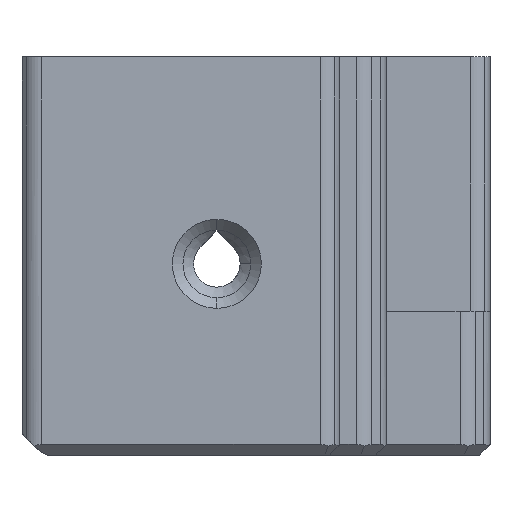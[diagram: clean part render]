
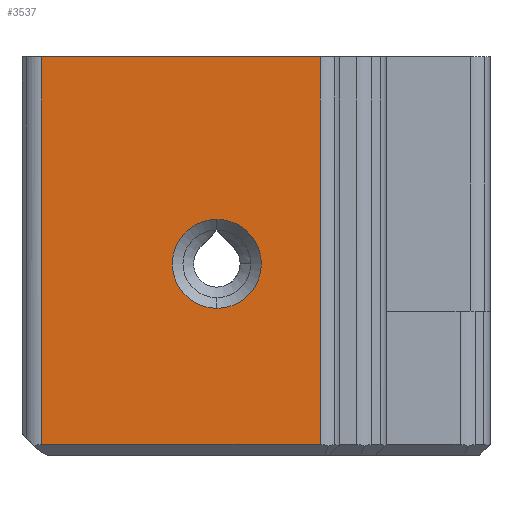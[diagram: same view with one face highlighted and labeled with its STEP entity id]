
A CAD part, front view. The second image highlights one B-rep face of the part: STEP entity #3537.
In plain terms, the highlighted planar face has unit normal (0, -1, 0).
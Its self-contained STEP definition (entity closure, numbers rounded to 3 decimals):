
#901=CARTESIAN_POINT('',(-4.086,-15.,0.5));
#1316=CARTESIAN_POINT('',(4.2,-15.,9.029));
#1317=DIRECTION('',(0.,1.,0.));
#1318=DIRECTION('',(0.,0.,1.));
#1319=AXIS2_PLACEMENT_3D('',#1316,#1317,#1318);
#1321=CARTESIAN_POINT('',(4.2,-15.,9.029));
#1322=DIRECTION('',(0.,1.,0.));
#1323=DIRECTION('',(0.,0.,-1.));
#1324=AXIS2_PLACEMENT_3D('',#1321,#1322,#1323);
#1326=DIRECTION('',(0.,0.,-1.));
#1327=VECTOR('',#1326,18.3);
#1328=CARTESIAN_POINT('',(-4.086,-15.,18.8));
#1329=LINE('',#1328,#1327);
#1330=DIRECTION('',(1.,0.,0.));
#1331=VECTOR('',#1330,13.172);
#1332=CARTESIAN_POINT('',(-4.086,-15.,18.8));
#1333=LINE('',#1332,#1331);
#1334=DIRECTION('',(0.,0.,1.));
#1335=VECTOR('',#1334,18.3);
#1336=CARTESIAN_POINT('',(9.086,-15.,0.5));
#1337=LINE('',#1336,#1335);
#1338=DIRECTION('',(-1.,0.,0.));
#1339=VECTOR('',#1338,13.172);
#1340=CARTESIAN_POINT('',(9.086,-15.,0.5));
#1341=LINE('',#1340,#1339);
#1414=CARTESIAN_POINT('',(4.2,-15.,11.129));
#1415=CARTESIAN_POINT('',(4.2,-15.,6.929));
#1416=VERTEX_POINT('',#1414);
#1417=VERTEX_POINT('',#1415);
#1697=VERTEX_POINT('',#901);
#1702=CARTESIAN_POINT('',(-4.086,-15.,18.8));
#1703=VERTEX_POINT('',#1702);
#1712=CARTESIAN_POINT('',(9.086,-15.,18.8));
#1713=VERTEX_POINT('',#1712);
#1714=CARTESIAN_POINT('',(9.086,-15.,0.5));
#1715=VERTEX_POINT('',#1714);
#3520=CARTESIAN_POINT('',(-10.,-15.,0.));
#3521=DIRECTION('',(0.,-1.,0.));
#3522=DIRECTION('',(1.,0.,0.));
#3523=AXIS2_PLACEMENT_3D('',#3520,#3521,#3522);
#3524=PLANE('',#3523);
#3525=ORIENTED_EDGE('',*,*,#3005,.F.);
#3526=ORIENTED_EDGE('',*,*,#2053,.T.);
#3528=ORIENTED_EDGE('',*,*,#3527,.F.);
#3529=ORIENTED_EDGE('',*,*,#2981,.T.);
#3530=EDGE_LOOP('',(#3525,#3526,#3528,#3529));
#3531=FACE_OUTER_BOUND('',#3530,.F.);
#3533=ORIENTED_EDGE('',*,*,#3532,.F.);
#3534=ORIENTED_EDGE('',*,*,#3510,.F.);
#3535=EDGE_LOOP('',(#3533,#3534));
#3536=FACE_BOUND('',#3535,.F.);
#3537=ADVANCED_FACE('',(#3531,#3536),#3524,.T.);
#1320=CIRCLE('',#1319,2.1);
#1325=CIRCLE('',#1324,2.1);
#2053=EDGE_CURVE('',#1703,#1713,#1333,.T.);
#2981=EDGE_CURVE('',#1715,#1697,#1341,.T.);
#3005=EDGE_CURVE('',#1703,#1697,#1329,.T.);
#3510=EDGE_CURVE('',#1417,#1416,#1325,.T.);
#3527=EDGE_CURVE('',#1715,#1713,#1337,.T.);
#3532=EDGE_CURVE('',#1416,#1417,#1320,.T.);
